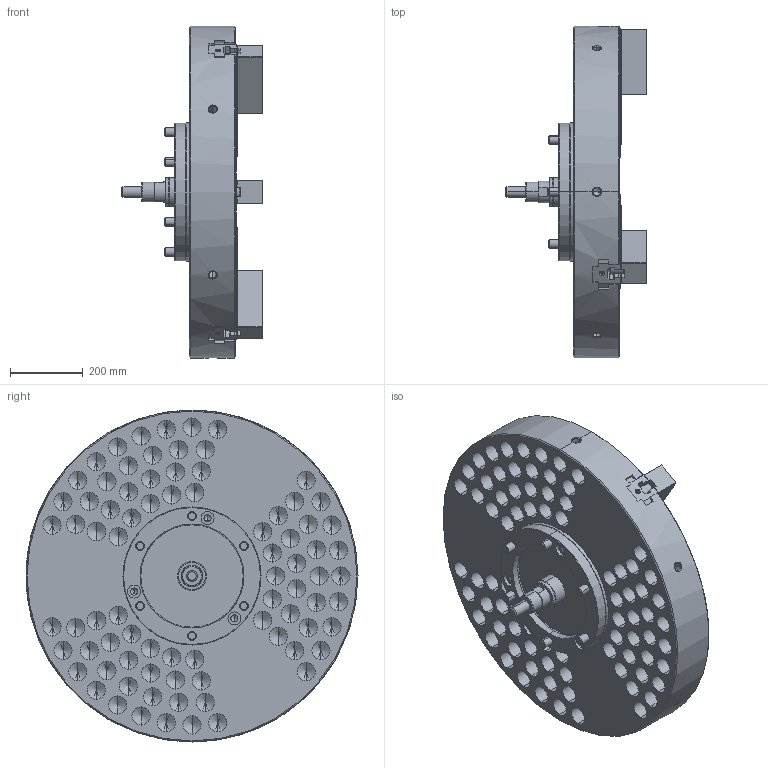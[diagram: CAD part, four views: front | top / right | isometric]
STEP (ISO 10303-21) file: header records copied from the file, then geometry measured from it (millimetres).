
FILE_DESCRIPTION (( 'STEP AP214' ), '1' );
FILE_NAME ('NV36C15_OC.STEP', '2019-12-19T23:22:07', ( '' ), ( '' ), 'SwSTEP 2.0', 'SolidWorks 2017', '' );
FILE_SCHEMA (( 'AUTOMOTIVE_DESIGN' ));
Length unit declared in the file: millimetre
Products named in the file (5): 結合; 0030120060; 61P418538_俿僫僢僩; P32262_ソフトジョー; NV36C15_OC
Assembly tree (16 placements, depth 2):
  NV36C15_OC
    P32262_ソフトジョー  x3
    61P418538_俿僫僢僩  x6
    0030120060  x6
    結合
Bounding box: 387 x 914 x 914 mm (x, y, z)
Volume: 79140773.5 mm3; surface area: 3013565.9 mm2
Topology: 16 solids, 16 shells, 6730 faces, 18763 edges, 12022 vertices
Faces by surface type: plane 5476, cylinder 593, cone 547, torus 108, sphere 6
Entity records: 179980 total; most frequent: CARTESIAN_POINT 34796, ORIENTED_EDGE 31170, DIRECTION 28268, EDGE_CURVE 15585, LINE 13462, VECTOR 13462, VERTEX_POINT 10133, AXIS2_PLACEMENT_3D 7403
